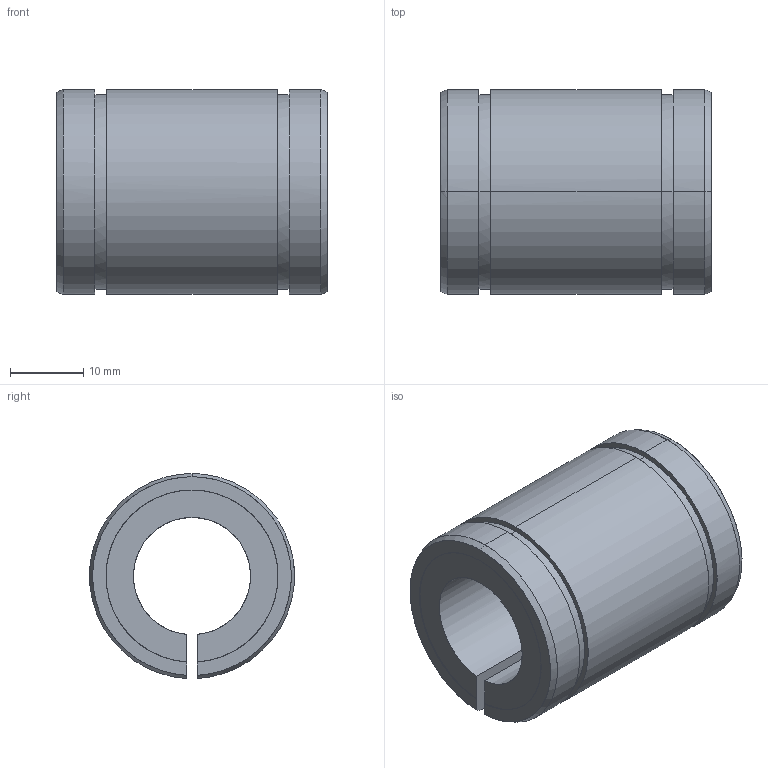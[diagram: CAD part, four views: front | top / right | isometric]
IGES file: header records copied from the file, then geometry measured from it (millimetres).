
Global section: file name: No Iges File Name specified; native system: AutoDesk Inventor R10; preprocessor: AutoDesk Inventor Iges Exporter R10; author: No Author specified; organization: No Organization specified; date: 20101208.095919; units: millimetre
Bounding box: 37 x 27.99 x 27.98 mm (x, y, z)
Surface area: 6421.6 mm2 (no closed solid volume)
Topology: 0 solids, 0 shells, 30 faces, 248 edges, 248 vertices
Faces by surface type: bspline 30
